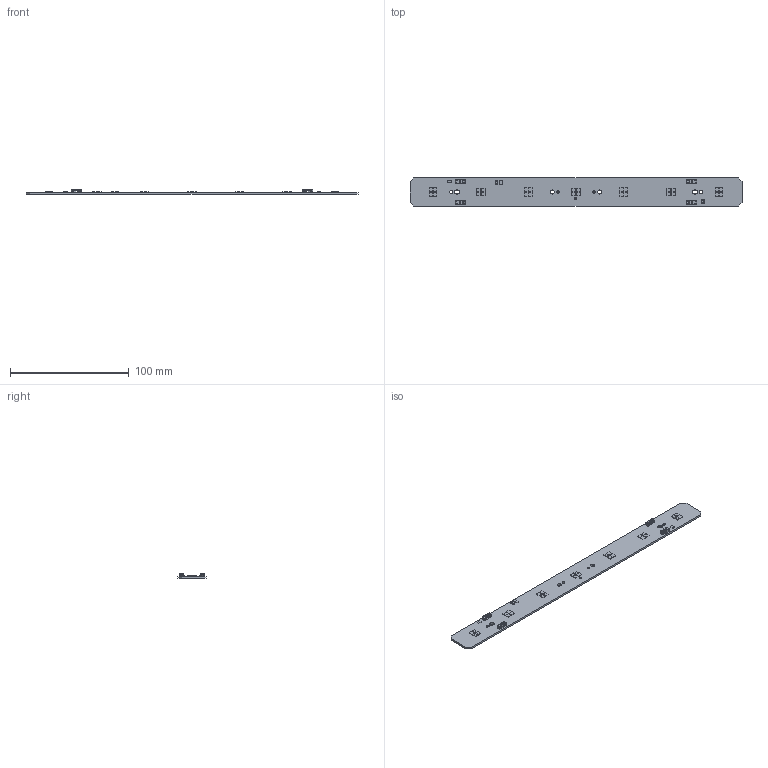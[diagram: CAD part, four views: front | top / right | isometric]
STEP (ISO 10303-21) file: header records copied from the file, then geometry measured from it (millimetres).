
FILE_DESCRIPTION((''),'2;1');
FILE_NAME('16208828_LLE-24X280-LVD-ADV1','2019-07-24T10:15:14',('bernhard.fink'),(''),'CREO PARAMETRIC BY PTC INC, 2019030','CREO PARAMETRIC BY PTC INC, 2019030','');
FILE_SCHEMA(('AUTOMOTIVE_DESIGN { 1 0 10303 214 1 1 1 1 }'));
Products named in the file (1): 16208828_LLE-24X280-LVD-ADV1
Bounding box: 279 x 23.6 x 4.2 mm (x, y, z)
Volume: 10861.9 mm3; surface area: 15636.6 mm2
Topology: 33 solids, 37 shells, 1565 faces, 4223 edges, 2645 vertices
Faces by surface type: plane 853, cylinder 488, bspline 172, sphere 24, cone 16, torus 12
Entity records: 77153 total; most frequent: CARTESIAN_POINT 17512, ORIENTED_EDGE 8006, DIRECTION 7101, PRESENTATION_STYLE_ASSIGNMENT 5493, STYLED_ITEM 4252, CURVE_STYLE 4215, EDGE_CURVE 4205, VECTOR 2746
